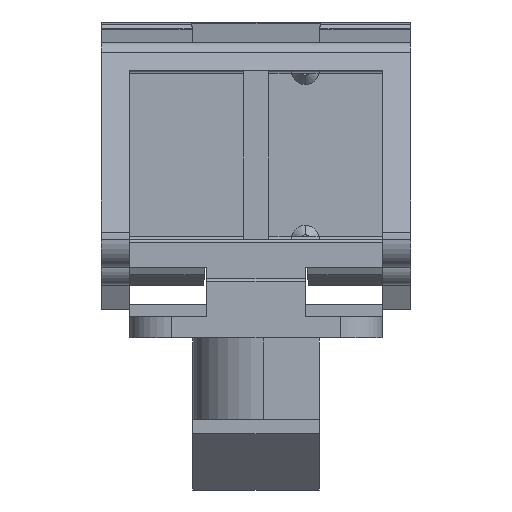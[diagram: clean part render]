
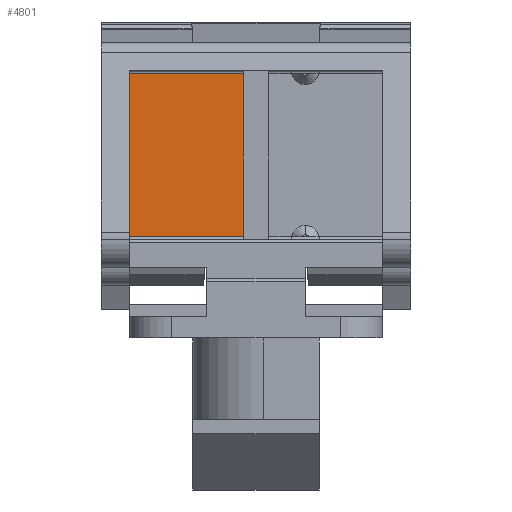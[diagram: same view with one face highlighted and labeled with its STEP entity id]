
A CAD part, left-side view. The second image highlights one B-rep face of the part: STEP entity #4801.
In plain terms, the highlighted planar face has unit normal (-1, 0, 0).
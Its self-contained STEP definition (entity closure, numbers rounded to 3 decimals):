
#262 = DIRECTION ( 'NONE',  ( -1., 0., 0. ) ) ;
#346 = CARTESIAN_POINT ( 'NONE',  ( 12., 13.8, -0.9 ) ) ;
#433 = DIRECTION ( 'NONE',  ( 0., 0., -1. ) ) ;
#567 = CARTESIAN_POINT ( 'NONE',  ( 12., 2.2, -9. ) ) ;
#873 = ORIENTED_EDGE ( 'NONE', *, *, #1502, .T. ) ;
#1075 = VERTEX_POINT ( 'NONE', #3582 ) ;
#1462 = DIRECTION ( 'NONE',  ( 0., 0., -1. ) ) ;
#1479 = VERTEX_POINT ( 'NONE', #346 ) ;
#1502 = EDGE_CURVE ( 'NONE', #1479, #1075, #2546, .T. ) ;
#1672 = EDGE_CURVE ( 'NONE', #7843, #1075, #7028, .T. ) ;
#2011 = DIRECTION ( 'NONE',  ( 0., 1., 0. ) ) ;
#2448 = CARTESIAN_POINT ( 'NONE',  ( 12., 2.2, -9. ) ) ;
#2493 = DIRECTION ( 'NONE',  ( 0., 1., 0. ) ) ;
#2546 = LINE ( 'NONE', #6896, #9185 ) ;
#2560 = FACE_OUTER_BOUND ( 'NONE', #4964, .T. ) ;
#2763 = ORIENTED_EDGE ( 'NONE', *, *, #1672, .F. ) ;
#3582 = CARTESIAN_POINT ( 'NONE',  ( 12., 13.8, -9. ) ) ;
#3703 = AXIS2_PLACEMENT_3D ( 'NONE', #4595, #262, #9045 ) ;
#3781 = ORIENTED_EDGE ( 'NONE', *, *, #7115, .T. ) ;
#3943 = VECTOR ( 'NONE', #1462, 1000. ) ;
#4595 = CARTESIAN_POINT ( 'NONE',  ( 12., 2.2, 9. ) ) ;
#4676 = CARTESIAN_POINT ( 'NONE',  ( 12., 2., -0.9 ) ) ;
#4801 = ADVANCED_FACE ( 'NONE', ( #2560 ), #6159, .T. ) ;
#4964 = EDGE_LOOP ( 'NONE', ( #5242, #3781, #873, #2763 ) ) ;
#5104 = VECTOR ( 'NONE', #2493, 1000. ) ;
#5242 = ORIENTED_EDGE ( 'NONE', *, *, #9154, .F. ) ;
#6024 = CARTESIAN_POINT ( 'NONE',  ( 12., 2.2, -0.9 ) ) ;
#6159 = PLANE ( 'NONE',  #3703 ) ;
#6480 = CARTESIAN_POINT ( 'NONE',  ( 12., 2.2, 9. ) ) ;
#6896 = CARTESIAN_POINT ( 'NONE',  ( 12., 13.8, 9. ) ) ;
#7028 = LINE ( 'NONE', #567, #7475 ) ;
#7115 = EDGE_CURVE ( 'NONE', #8094, #1479, #8209, .T. ) ;
#7475 = VECTOR ( 'NONE', #2011, 1000. ) ;
#7843 = VERTEX_POINT ( 'NONE', #2448 ) ;
#7946 = LINE ( 'NONE', #6480, #3943 ) ;
#8094 = VERTEX_POINT ( 'NONE', #6024 ) ;
#8209 = LINE ( 'NONE', #4676, #5104 ) ;
#9045 = DIRECTION ( 'NONE',  ( 0., 0., 1. ) ) ;
#9154 = EDGE_CURVE ( 'NONE', #8094, #7843, #7946, .T. ) ;
#9185 = VECTOR ( 'NONE', #433, 1000. ) ;
